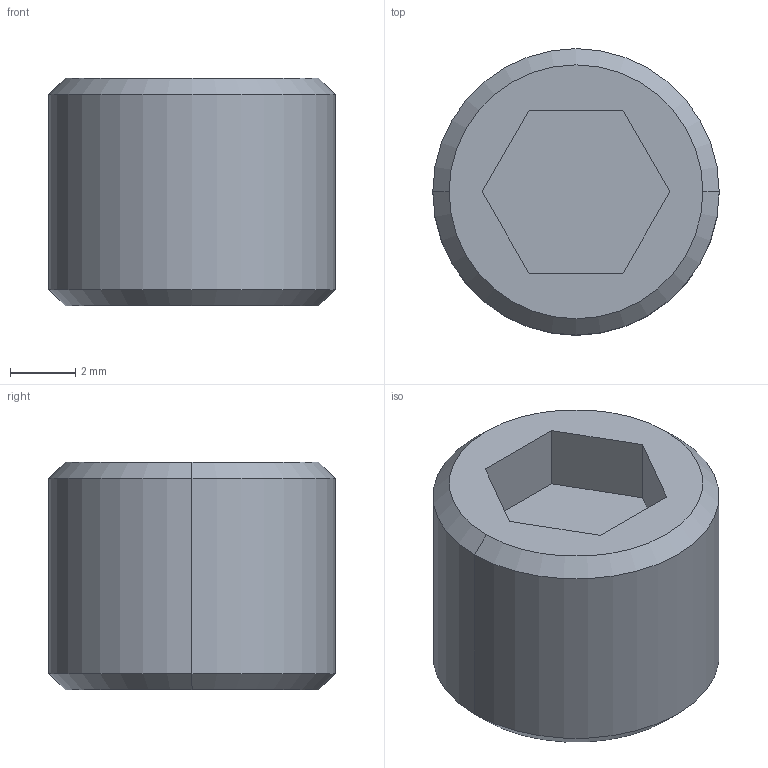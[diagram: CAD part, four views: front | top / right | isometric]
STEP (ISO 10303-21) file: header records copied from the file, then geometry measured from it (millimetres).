
FILE_DESCRIPTION (( 'STEP AP214' ), '1' );
FILE_NAME ('APF-G18.STEP', '2019-11-18T01:23:46', ( '微软用户' ), ( '微软中国' ), 'SwSTEP 2.0', 'SolidWorks 2016', '' );
FILE_SCHEMA (( 'AUTOMOTIVE_DESIGN' ));
Length unit declared in the file: millimetre
Products named in the file (1): APF-G18
Bounding box: 8.8 x 8.8 x 7 mm (x, y, z)
Volume: 375.8 mm3; surface area: 333 mm2
Topology: 1 solids, 1 shells, 15 faces, 32 edges, 20 vertices
Faces by surface type: plane 9, cone 4, cylinder 2
Entity records: 436 total; most frequent: DIRECTION 72, CARTESIAN_POINT 68, ORIENTED_EDGE 64, EDGE_CURVE 32, AXIS2_PLACEMENT_3D 24, VECTOR 24, LINE 24, VERTEX_POINT 20
